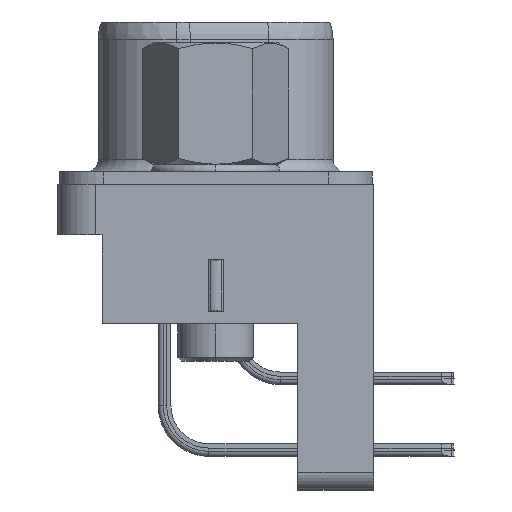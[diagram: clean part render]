
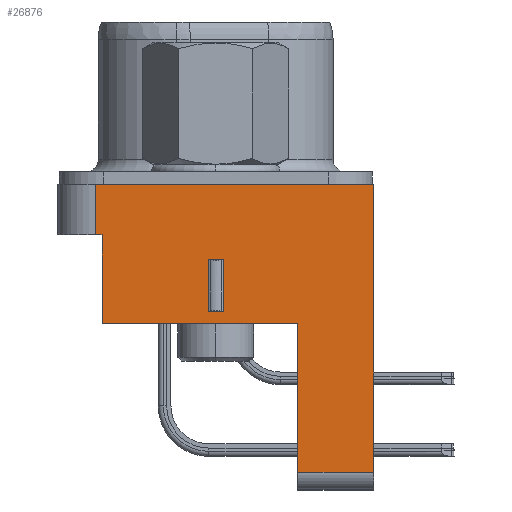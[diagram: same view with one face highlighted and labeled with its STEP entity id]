
A CAD part, left-side view. The second image highlights one B-rep face of the part: STEP entity #26876.
In plain terms, the highlighted planar face has unit normal (-1, 0, 0).
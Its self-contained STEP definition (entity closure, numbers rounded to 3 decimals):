
#493 = DIRECTION ( 'NONE',  ( 0., 0., -1. ) ) ;
#985 = CARTESIAN_POINT ( 'NONE',  ( -34.65, 4.75, 0. ) ) ;
#1010 = LINE ( 'NONE', #32606, #55359 ) ;
#1323 = CARTESIAN_POINT ( 'NONE',  ( -34.65, -3.25, -5.5 ) ) ;
#1382 = CARTESIAN_POINT ( 'NONE',  ( -34.65, 6.25, -5.5 ) ) ;
#1951 = VECTOR ( 'NONE', #61142, 1000. ) ;
#2800 = DIRECTION ( 'NONE',  ( 0., -1., 0. ) ) ;
#3455 = DIRECTION ( 'NONE',  ( 0., -1., 0. ) ) ;
#3774 = FACE_BOUND ( 'NONE', #45610, .T. ) ;
#7329 = B_SPLINE_CURVE_WITH_KNOTS ( 'NONE', 3,
 ( #37600, #17173, #12586, #42552 ),
 .UNSPECIFIED., .F., .F.,
 ( 4, 4 ),
 ( 0.002, 0.002 ),
 .UNSPECIFIED. ) ;
#7737 = CARTESIAN_POINT ( 'NONE',  ( -34.65, 0.1, -2.944 ) ) ;
#8068 = DIRECTION ( 'NONE',  ( 0., -1., 0. ) ) ;
#10178 = VERTEX_POINT ( 'NONE', #18550 ) ;
#10192 = ORIENTED_EDGE ( 'NONE', *, *, #25223, .T. ) ;
#10223 = DIRECTION ( 'NONE',  ( 0., 0., 1. ) ) ;
#11317 = VERTEX_POINT ( 'NONE', #51402 ) ;
#11947 = CARTESIAN_POINT ( 'NONE',  ( -34.65, 4.5, -5.5 ) ) ;
#12586 = CARTESIAN_POINT ( 'NONE',  ( -34.65, 0.1, -5.056 ) ) ;
#12607 = EDGE_CURVE ( 'NONE', #33201, #48520, #1010, .T. ) ;
#13461 = VERTEX_POINT ( 'NONE', #34599 ) ;
#13517 = EDGE_CURVE ( 'NONE', #45843, #48858, #41388, .T. ) ;
#14124 = VECTOR ( 'NONE', #30956, 1000. ) ;
#14308 = ORIENTED_EDGE ( 'NONE', *, *, #48917, .T. ) ;
#14595 = CARTESIAN_POINT ( 'NONE',  ( -34.65, 4.5, -5.5 ) ) ;
#14677 = VERTEX_POINT ( 'NONE', #53025 ) ;
#15033 = ORIENTED_EDGE ( 'NONE', *, *, #12607, .F. ) ;
#15227 = CARTESIAN_POINT ( 'NONE',  ( -34.65, 0.297, -5.5 ) ) ;
#16581 = VERTEX_POINT ( 'NONE', #49250 ) ;
#16956 = ORIENTED_EDGE ( 'NONE', *, *, #51376, .T. ) ;
#17173 = CARTESIAN_POINT ( 'NONE',  ( -34.65, -0.1, -5.056 ) ) ;
#17338 = VECTOR ( 'NONE', #49734, 1000. ) ;
#17650 = EDGE_CURVE ( 'NONE', #45843, #14677, #53276, .T. ) ;
#18550 = CARTESIAN_POINT ( 'NONE',  ( -34.65, -0.297, -2.955 ) ) ;
#19287 = DIRECTION ( 'NONE',  ( 0., -1., 0. ) ) ;
#19501 = CARTESIAN_POINT ( 'NONE',  ( -34.65, 7.5, -2. ) ) ;
#20046 = EDGE_CURVE ( 'NONE', #21221, #16581, #43420, .T. ) ;
#20569 = DIRECTION ( 'NONE',  ( -1., 0., 0. ) ) ;
#20739 = VECTOR ( 'NONE', #29179, 1000. ) ;
#20984 = DIRECTION ( 'NONE',  ( 0., 0., 1. ) ) ;
#21084 = AXIS2_PLACEMENT_3D ( 'NONE', #1382, #20569, #20984 ) ;
#21221 = VERTEX_POINT ( 'NONE', #55259 ) ;
#21961 = VERTEX_POINT ( 'NONE', #57160 ) ;
#22455 = VECTOR ( 'NONE', #10223, 1000. ) ;
#22720 = ORIENTED_EDGE ( 'NONE', *, *, #20046, .T. ) ;
#23168 = VECTOR ( 'NONE', #493, 1000. ) ;
#23346 = ORIENTED_EDGE ( 'NONE', *, *, #54930, .F. ) ;
#25223 = EDGE_CURVE ( 'NONE', #13461, #48520, #39009, .T. ) ;
#26199 = PLANE ( 'NONE',  #21084 ) ;
#26876 = ADVANCED_FACE ( 'NONE', ( #38769, #3774 ), #26199, .T. ) ;
#27015 = ORIENTED_EDGE ( 'NONE', *, *, #62898, .T. ) ;
#27330 = CARTESIAN_POINT ( 'NONE',  ( -34.65, 0.297, -2.955 ) ) ;
#29179 = DIRECTION ( 'NONE',  ( 0., 0., 1. ) ) ;
#30956 = DIRECTION ( 'NONE',  ( 0., 0., 1. ) ) ;
#31886 = CARTESIAN_POINT ( 'NONE',  ( -34.65, -0.1, -2.944 ) ) ;
#32606 = CARTESIAN_POINT ( 'NONE',  ( -34.65, 6.25, 0. ) ) ;
#32858 = ORIENTED_EDGE ( 'NONE', *, *, #57300, .T. ) ;
#33143 = VERTEX_POINT ( 'NONE', #40775 ) ;
#33201 = VERTEX_POINT ( 'NONE', #985 ) ;
#33209 = EDGE_LOOP ( 'NONE', ( #40203, #23346, #14308, #10192, #15033, #32858, #16956, #48186 ) ) ;
#34414 = LINE ( 'NONE', #50360, #17338 ) ;
#34599 = CARTESIAN_POINT ( 'NONE',  ( -34.65, -6.25, -11.4 ) ) ;
#35408 = VECTOR ( 'NONE', #8068, 1000. ) ;
#36075 = B_SPLINE_CURVE_WITH_KNOTS ( 'NONE', 3,
 ( #27330, #7737, #31886, #61479 ),
 .UNSPECIFIED., .F., .F.,
 ( 4, 4 ),
 ( 0.002, 0.002 ),
 .UNSPECIFIED. ) ;
#37600 = CARTESIAN_POINT ( 'NONE',  ( -34.65, -0.297, -5.045 ) ) ;
#38130 = CARTESIAN_POINT ( 'NONE',  ( -34.65, -6.25, 0. ) ) ;
#38769 = FACE_OUTER_BOUND ( 'NONE', #33209, .T. ) ;
#39009 = LINE ( 'NONE', #60583, #14124 ) ;
#39693 = LINE ( 'NONE', #19501, #63639 ) ;
#40203 = ORIENTED_EDGE ( 'NONE', *, *, #13517, .T. ) ;
#40284 = CARTESIAN_POINT ( 'NONE',  ( -34.65, -0.297, -5.5 ) ) ;
#40775 = CARTESIAN_POINT ( 'NONE',  ( -34.65, -3.25, -11.4 ) ) ;
#40851 = LINE ( 'NONE', #46490, #1951 ) ;
#41388 = LINE ( 'NONE', #62852, #53758 ) ;
#42552 = CARTESIAN_POINT ( 'NONE',  ( -34.65, 0.297, -5.045 ) ) ;
#43420 = LINE ( 'NONE', #15227, #22455 ) ;
#45610 = EDGE_LOOP ( 'NONE', ( #51641, #22720, #27015, #48525 ) ) ;
#45843 = VERTEX_POINT ( 'NONE', #11947 ) ;
#46490 = CARTESIAN_POINT ( 'NONE',  ( -34.65, -3.25, -5.5 ) ) ;
#46760 = EDGE_CURVE ( 'NONE', #10178, #11317, #57281, .T. ) ;
#48186 = ORIENTED_EDGE ( 'NONE', *, *, #17650, .F. ) ;
#48520 = VERTEX_POINT ( 'NONE', #38130 ) ;
#48525 = ORIENTED_EDGE ( 'NONE', *, *, #46760, .T. ) ;
#48858 = VERTEX_POINT ( 'NONE', #1323 ) ;
#48917 = EDGE_CURVE ( 'NONE', #33143, #13461, #60858, .T. ) ;
#49250 = CARTESIAN_POINT ( 'NONE',  ( -34.65, 0.297, -2.955 ) ) ;
#49487 = EDGE_CURVE ( 'NONE', #11317, #21221, #7329, .T. ) ;
#49734 = DIRECTION ( 'NONE',  ( 0., 0., -1. ) ) ;
#50360 = CARTESIAN_POINT ( 'NONE',  ( -34.65, 4.75, -5.5 ) ) ;
#50797 = CARTESIAN_POINT ( 'NONE',  ( -34.65, -6.25, -11.4 ) ) ;
#51376 = EDGE_CURVE ( 'NONE', #21961, #14677, #39693, .T. ) ;
#51402 = CARTESIAN_POINT ( 'NONE',  ( -34.65, -0.297, -5.045 ) ) ;
#51641 = ORIENTED_EDGE ( 'NONE', *, *, #49487, .T. ) ;
#53025 = CARTESIAN_POINT ( 'NONE',  ( -34.65, 4.5, -2. ) ) ;
#53276 = LINE ( 'NONE', #14595, #20739 ) ;
#53758 = VECTOR ( 'NONE', #3455, 1000. ) ;
#54930 = EDGE_CURVE ( 'NONE', #33143, #48858, #40851, .T. ) ;
#55259 = CARTESIAN_POINT ( 'NONE',  ( -34.65, 0.297, -5.045 ) ) ;
#55359 = VECTOR ( 'NONE', #2800, 1000. ) ;
#57160 = CARTESIAN_POINT ( 'NONE',  ( -34.65, 4.75, -2. ) ) ;
#57281 = LINE ( 'NONE', #40284, #23168 ) ;
#57300 = EDGE_CURVE ( 'NONE', #33201, #21961, #34414, .T. ) ;
#60583 = CARTESIAN_POINT ( 'NONE',  ( -34.65, -6.25, -5.5 ) ) ;
#60858 = LINE ( 'NONE', #50797, #35408 ) ;
#61142 = DIRECTION ( 'NONE',  ( 0., 0., 1. ) ) ;
#61479 = CARTESIAN_POINT ( 'NONE',  ( -34.65, -0.297, -2.955 ) ) ;
#62852 = CARTESIAN_POINT ( 'NONE',  ( -34.65, 6.25, -5.5 ) ) ;
#62898 = EDGE_CURVE ( 'NONE', #16581, #10178, #36075, .T. ) ;
#63639 = VECTOR ( 'NONE', #19287, 1000. ) ;
